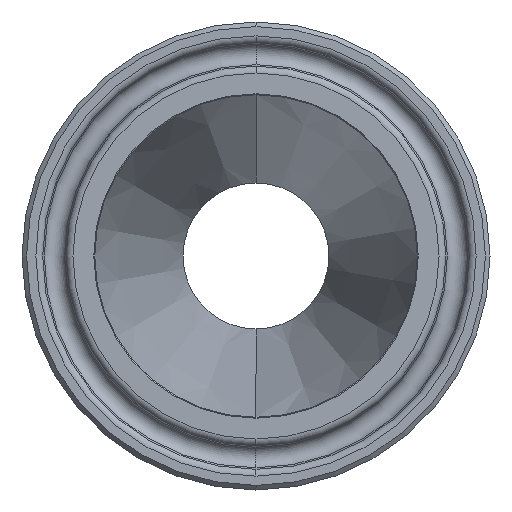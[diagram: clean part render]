
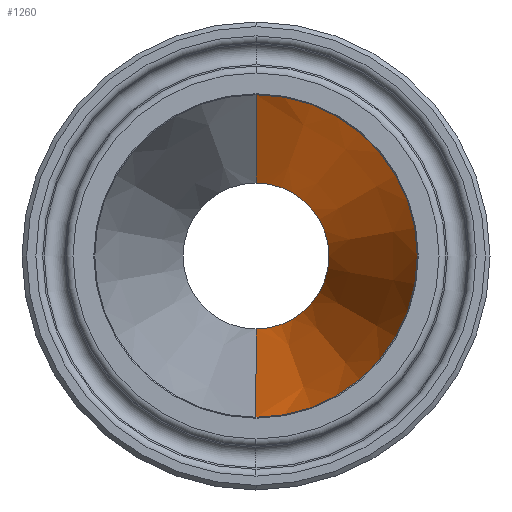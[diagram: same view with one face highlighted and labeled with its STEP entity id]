
A CAD part, left-side view. The second image highlights one B-rep face of the part: STEP entity #1260.
In plain terms, the highlighted conical face has half-angle 14.408 degrees and reference radius 7.875 mm.
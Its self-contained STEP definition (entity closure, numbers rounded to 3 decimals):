
#28 = ORIENTED_EDGE ( 'NONE', *, *, #1042, .T. ) ;
#64 = CARTESIAN_POINT ( 'NONE',  ( -41.275, 0., 17.4 ) ) ;
#110 = CARTESIAN_POINT ( 'NONE',  ( -41.275, 0., 0. ) ) ;
#120 = CIRCLE ( 'NONE', #1006, 17.4 ) ;
#173 = DIRECTION ( 'NONE',  ( 0., 0., 1. ) ) ;
#304 = VECTOR ( 'NONE', #620, 1000. ) ;
#335 = VERTEX_POINT ( 'NONE', #880 ) ;
#339 = EDGE_CURVE ( 'NONE', #728, #335, #579, .T. ) ;
#364 = VERTEX_POINT ( 'NONE', #1357 ) ;
#375 = VERTEX_POINT ( 'NONE', #64 ) ;
#376 = CONICAL_SURFACE ( 'NONE', #429, 7.875, 0.251 ) ;
#429 = AXIS2_PLACEMENT_3D ( 'NONE', #1096, #1423, #1105 ) ;
#547 = AXIS2_PLACEMENT_3D ( 'NONE', #1297, #1328, #1346 ) ;
#579 = CIRCLE ( 'NONE', #547, 7.875 ) ;
#601 = ORIENTED_EDGE ( 'NONE', *, *, #978, .T. ) ;
#620 = DIRECTION ( 'NONE',  ( -0.969, 0., 0.249 ) ) ;
#728 = VERTEX_POINT ( 'NONE', #983 ) ;
#809 = ORIENTED_EDGE ( 'NONE', *, *, #339, .F. ) ;
#880 = CARTESIAN_POINT ( 'NONE',  ( -4.2, 0., 7.875 ) ) ;
#896 = LINE ( 'NONE', #1294, #304 ) ;
#901 = EDGE_LOOP ( 'NONE', ( #809, #601, #28, #957 ) ) ;
#957 = ORIENTED_EDGE ( 'NONE', *, *, #1148, .F. ) ;
#978 = EDGE_CURVE ( 'NONE', #728, #364, #1431, .T. ) ;
#983 = CARTESIAN_POINT ( 'NONE',  ( -4.2, 0., -7.875 ) ) ;
#1006 = AXIS2_PLACEMENT_3D ( 'NONE', #110, #1418, #173 ) ;
#1019 = CARTESIAN_POINT ( 'NONE',  ( -4.2, 0., -7.875 ) ) ;
#1042 = EDGE_CURVE ( 'NONE', #364, #375, #120, .T. ) ;
#1062 = DIRECTION ( 'NONE',  ( -0.969, 0., -0.249 ) ) ;
#1096 = CARTESIAN_POINT ( 'NONE',  ( -4.2, 0., 0. ) ) ;
#1105 = DIRECTION ( 'NONE',  ( 0., 0., 1. ) ) ;
#1122 = VECTOR ( 'NONE', #1062, 1000. ) ;
#1148 = EDGE_CURVE ( 'NONE', #335, #375, #896, .T. ) ;
#1260 = ADVANCED_FACE ( 'NONE', ( #1281 ), #376, .F. ) ;
#1281 = FACE_OUTER_BOUND ( 'NONE', #901, .T. ) ;
#1294 = CARTESIAN_POINT ( 'NONE',  ( -4.2, 0., 7.875 ) ) ;
#1297 = CARTESIAN_POINT ( 'NONE',  ( -4.2, 0., 0. ) ) ;
#1328 = DIRECTION ( 'NONE',  ( -1., 0., 0. ) ) ;
#1346 = DIRECTION ( 'NONE',  ( 0., 0., 1. ) ) ;
#1357 = CARTESIAN_POINT ( 'NONE',  ( -41.275, 0., -17.4 ) ) ;
#1418 = DIRECTION ( 'NONE',  ( -1., 0., 0. ) ) ;
#1423 = DIRECTION ( 'NONE',  ( -1., 0., 0. ) ) ;
#1431 = LINE ( 'NONE', #1019, #1122 ) ;
